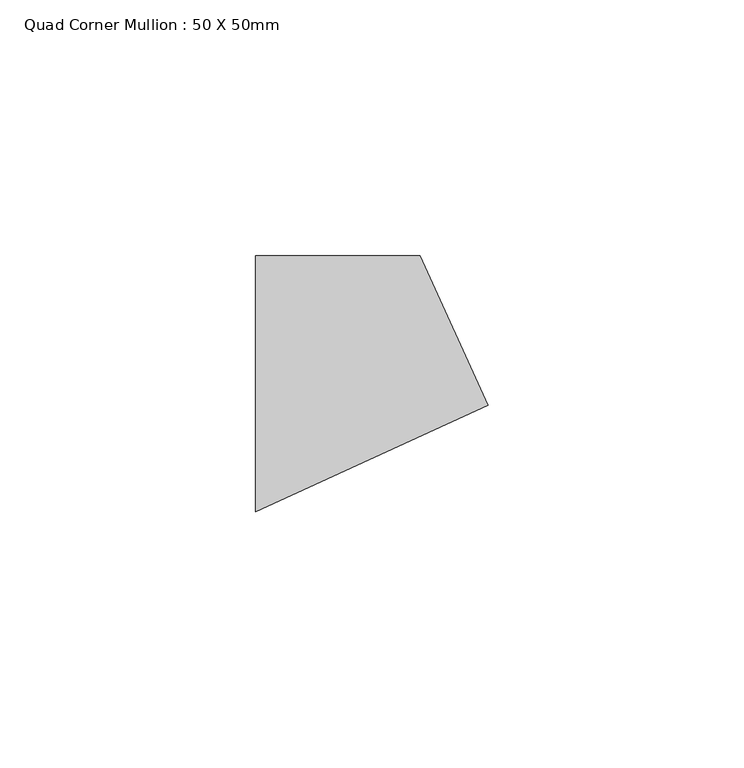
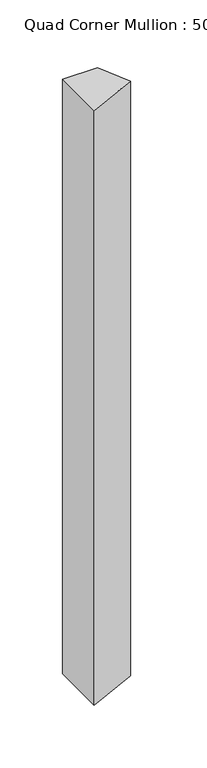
"""IFC4 building model written with IfcOpenShell, lengths in millimetres: member geometry, Quad Corner Mullion : 50 X 50mm."""

from ifc_helpers import new_model, si_unit, frame, origin, place, context, project, spatial, polyline, outline, extrude, source, transform, mapped, element, save


def quad_corner_mullion_50_x_50mm_2da24175(model_context):
    return source(origin(), model_context, "Body", "SweptSolid", [
        extrude(outline(polyline([(29.4125559, -4.1926582), (-16.0523154, -25.0), (-16.0523154, 25.0), (16.0523154, 25.0), (29.4125559, -4.1926582)])), frame((0.0, 0.0, -576.1224123), z_axis=(0.0, 0.0, 1.0), x_axis=(1.0, 0.0, 0.0)), (0.0, 0.0, 1.0), 576.1224123),
    ])


if __name__ == "__main__":
    model = new_model("IFC4")
    model_context = context("Model", 3, world=origin())
    ifc_project = project(units=[si_unit("LENGTHUNIT", "METRE", prefix="MILLI")], contexts=[model_context])
    site = spatial("IfcSite", under=ifc_project)
    building = spatial("IfcBuilding", under=site)
    placement = place(None, origin())
    quad_corner_mullion_50_x_50mm_shape = quad_corner_mullion_50_x_50mm_2da24175(model_context)
    element("IfcMember", 1, ObjectType="Quad Corner Mullion : 50 X 50mm", at=placement, inside=building, context=model_context, shape_type="MappedRepresentation", body=[
        mapped(quad_corner_mullion_50_x_50mm_shape, transform((0.0, 0.0, 0.0), x_axis=(1.0, 0.0, 0.0), y_axis=(0.0, 1.0, 0.0), z_axis=(0.0, 0.0, 1.0))),
    ])
    save(model, "model.ifc")
